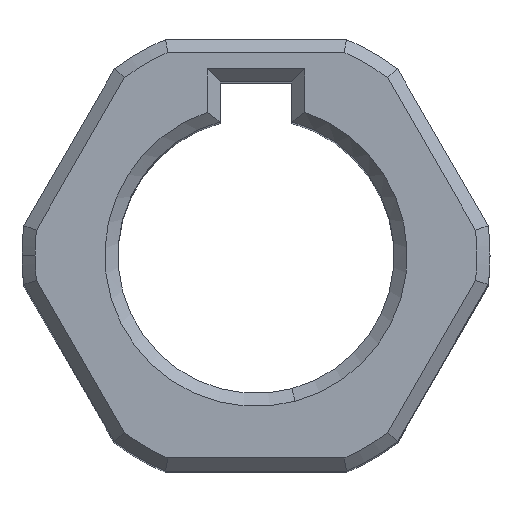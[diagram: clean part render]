
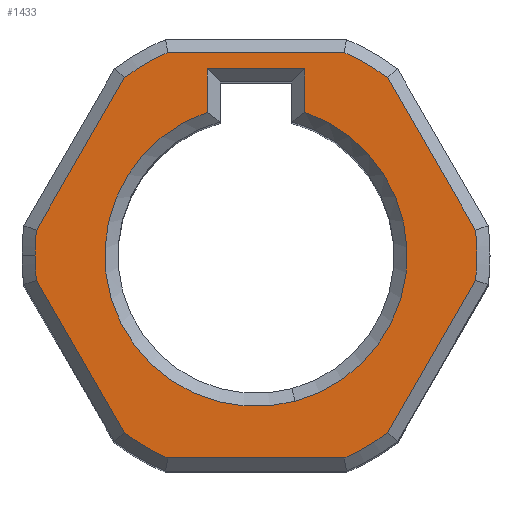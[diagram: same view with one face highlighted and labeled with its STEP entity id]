
A CAD part, top view. The second image highlights one B-rep face of the part: STEP entity #1433.
In plain terms, the highlighted planar face has unit normal (0, 0, 1).
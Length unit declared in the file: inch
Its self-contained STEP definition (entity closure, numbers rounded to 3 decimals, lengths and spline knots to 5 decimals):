
#2 = VECTOR ( 'NONE', #52, 39.37008 ) ;
#23 = CARTESIAN_POINT ( 'NONE',  ( 0.25342, 0.02907, 1. ) ) ;
#30 = CARTESIAN_POINT ( 'NONE',  ( 0., 0., 1. ) ) ;
#37 = VERTEX_POINT ( 'NONE', #1381 ) ;
#41 = EDGE_CURVE ( 'NONE', #304, #479, #1276, .T. ) ;
#45 = CARTESIAN_POINT ( 'NONE',  ( 0., 0., 1. ) ) ;
#47 = ORIENTED_EDGE ( 'NONE', *, *, #41, .F. ) ;
#52 = DIRECTION ( 'NONE',  ( 0., -1., 0. ) ) ;
#72 = VECTOR ( 'NONE', #1590, 39.37008 ) ;
#73 = AXIS2_PLACEMENT_3D ( 'NONE', #1268, #502, #133 ) ;
#77 = CARTESIAN_POINT ( 'NONE',  ( 0., 0., 1. ) ) ;
#79 = LINE ( 'NONE', #212, #72 ) ;
#81 = PLANE ( 'NONE',  #1495 ) ;
#84 = DIRECTION ( 'NONE',  ( 0., 0., -1. ) ) ;
#88 = CARTESIAN_POINT ( 'NONE',  ( -0.25342, -0.02907, 1. ) ) ;
#95 = CARTESIAN_POINT ( 'NONE',  ( 0., 0., 1. ) ) ;
#96 = CIRCLE ( 'NONE', #1014, 0.25508 ) ;
#133 = DIRECTION ( 'NONE',  ( 0.259, -0.966, 0. ) ) ;
#146 = DIRECTION ( 'NONE',  ( 0.259, -0.966, 0. ) ) ;
#151 = CIRCLE ( 'NONE', #1063, 0.17445 ) ;
#157 = CIRCLE ( 'NONE', #1589, 0.25508 ) ;
#168 = ORIENTED_EDGE ( 'NONE', *, *, #192, .F. ) ;
#190 = VERTEX_POINT ( 'NONE', #936 ) ;
#192 = EDGE_CURVE ( 'NONE', #662, #304, #1039, .T. ) ;
#208 = DIRECTION ( 'NONE',  ( 0., 0., -1. ) ) ;
#212 = CARTESIAN_POINT ( 'NONE',  ( 0.05634, 0.1, 1. ) ) ;
#228 = EDGE_CURVE ( 'NONE', #1127, #1602, #1418, .T. ) ;
#235 = DIRECTION ( 'NONE',  ( 0.5, -0.866, 0. ) ) ;
#274 = EDGE_CURVE ( 'NONE', #778, #1401, #1119, .T. ) ;
#303 = CARTESIAN_POINT ( 'NONE',  ( -0.25342, 0.02907, 1. ) ) ;
#304 = VERTEX_POINT ( 'NONE', #428 ) ;
#312 = VERTEX_POINT ( 'NONE', #559 ) ;
#314 = LINE ( 'NONE', #1339, #986 ) ;
#320 = DIRECTION ( 'NONE',  ( -1., 0., 0. ) ) ;
#330 = EDGE_CURVE ( 'NONE', #995, #852, #79, .T. ) ;
#347 = CARTESIAN_POINT ( 'NONE',  ( -0.05634, 0.215, 1. ) ) ;
#384 = LINE ( 'NONE', #1394, #962 ) ;
#389 = EDGE_LOOP ( 'NONE', ( #47, #168, #1459, #486, #1125, #637, #1113, #793, #1251, #1165, #488, #1449, #934 ) ) ;
#401 = CARTESIAN_POINT ( 'NONE',  ( 0., 0., 1. ) ) ;
#420 = DIRECTION ( 'NONE',  ( -1., 0., 0. ) ) ;
#421 = VECTOR ( 'NONE', #1527, 39.37008 ) ;
#426 = CARTESIAN_POINT ( 'NONE',  ( -0.05634, 0.077, 1. ) ) ;
#428 = CARTESIAN_POINT ( 'NONE',  ( 0.25342, -0.02907, 1. ) ) ;
#448 = DIRECTION ( 'NONE',  ( -1., 0., 0. ) ) ;
#479 = VERTEX_POINT ( 'NONE', #898 ) ;
#481 = CARTESIAN_POINT ( 'NONE',  ( 0.07188, 0.234, 1. ) ) ;
#485 = CARTESIAN_POINT ( 'NONE',  ( -0.15188, -0.20493, 1. ) ) ;
#486 = ORIENTED_EDGE ( 'NONE', *, *, #649, .F. ) ;
#488 = ORIENTED_EDGE ( 'NONE', *, *, #837, .F. ) ;
#489 = DIRECTION ( 'NONE',  ( 1., 0., 0. ) ) ;
#502 = DIRECTION ( 'NONE',  ( 0., 0., 1. ) ) ;
#524 = EDGE_CURVE ( 'NONE', #674, #995, #1544, .T. ) ;
#527 = VECTOR ( 'NONE', #970, 39.37008 ) ;
#534 = DIRECTION ( 'NONE',  ( 0., 0., 1. ) ) ;
#537 = CARTESIAN_POINT ( 'NONE',  ( 0.16671, -0.17925, 1. ) ) ;
#559 = CARTESIAN_POINT ( 'NONE',  ( 0.15188, 0.20493, 1. ) ) ;
#574 = VECTOR ( 'NONE', #1441, 39.37008 ) ;
#586 = CARTESIAN_POINT ( 'NONE',  ( 0., 0., 1. ) ) ;
#602 = LINE ( 'NONE', #481, #527 ) ;
#637 = ORIENTED_EDGE ( 'NONE', *, *, #835, .F. ) ;
#649 = EDGE_CURVE ( 'NONE', #1214, #312, #938, .T. ) ;
#662 = VERTEX_POINT ( 'NONE', #23 ) ;
#674 = VERTEX_POINT ( 'NONE', #733 ) ;
#692 = DIRECTION ( 'NONE',  ( -1., 0., 0. ) ) ;
#715 = CARTESIAN_POINT ( 'NONE',  ( 0., 0., 1. ) ) ;
#725 = EDGE_CURVE ( 'NONE', #1602, #674, #151, .T. ) ;
#731 = VECTOR ( 'NONE', #1090, 39.37008 ) ;
#733 = CARTESIAN_POINT ( 'NONE',  ( 0.04523, -0.16848, 1. ) ) ;
#778 = VERTEX_POINT ( 'NONE', #88 ) ;
#793 = ORIENTED_EDGE ( 'NONE', *, *, #1032, .F. ) ;
#798 = CARTESIAN_POINT ( 'NONE',  ( 0., 0., 1. ) ) ;
#822 = LINE ( 'NONE', #932, #574 ) ;
#823 = EDGE_CURVE ( 'NONE', #1058, #190, #314, .T. ) ;
#833 = CARTESIAN_POINT ( 'NONE',  ( -0.10153, 0.234, 1. ) ) ;
#835 = EDGE_CURVE ( 'NONE', #37, #1424, #857, .T. ) ;
#837 = EDGE_CURVE ( 'NONE', #190, #1334, #1065, .T. ) ;
#849 = DIRECTION ( 'NONE',  ( 0., 0., 1. ) ) ;
#852 = VERTEX_POINT ( 'NONE', #1355 ) ;
#857 = CIRCLE ( 'NONE', #1564, 0.25508 ) ;
#898 = CARTESIAN_POINT ( 'NONE',  ( 0.15188, -0.20493, 1. ) ) ;
#909 = AXIS2_PLACEMENT_3D ( 'NONE', #798, #1179, #420 ) ;
#910 = DIRECTION ( 'NONE',  ( 0.5, 0.866, 0. ) ) ;
#932 = CARTESIAN_POINT ( 'NONE',  ( -0.02067, 0.215, 1. ) ) ;
#934 = ORIENTED_EDGE ( 'NONE', *, *, #1213, .F. ) ;
#936 = CARTESIAN_POINT ( 'NONE',  ( -0.10153, -0.234, 1. ) ) ;
#938 = CIRCLE ( 'NONE', #1367, 0.25508 ) ;
#962 = VECTOR ( 'NONE', #235, 39.37008 ) ;
#964 = CARTESIAN_POINT ( 'NONE',  ( 0., 0., 1. ) ) ;
#968 = VERTEX_POINT ( 'NONE', #303 ) ;
#970 = DIRECTION ( 'NONE',  ( 1., 0., 0. ) ) ;
#975 = CARTESIAN_POINT ( 'NONE',  ( -0.23859, -0.05475, 1. ) ) ;
#986 = VECTOR ( 'NONE', #448, 39.37008 ) ;
#991 = LINE ( 'NONE', #975, #731 ) ;
#995 = VERTEX_POINT ( 'NONE', #1226 ) ;
#1013 = EDGE_CURVE ( 'NONE', #1424, #1214, #602, .T. ) ;
#1014 = AXIS2_PLACEMENT_3D ( 'NONE', #30, #1530, #1400 ) ;
#1031 = CARTESIAN_POINT ( 'NONE',  ( -0.16671, 0.17925, 1. ) ) ;
#1032 = EDGE_CURVE ( 'NONE', #1401, #968, #96, .T. ) ;
#1039 = CIRCLE ( 'NONE', #1088, 0.25508 ) ;
#1045 = ORIENTED_EDGE ( 'NONE', *, *, #330, .F. ) ;
#1055 = EDGE_CURVE ( 'NONE', #968, #37, #1415, .T. ) ;
#1058 = VERTEX_POINT ( 'NONE', #1301 ) ;
#1063 = AXIS2_PLACEMENT_3D ( 'NONE', #45, #534, #146 ) ;
#1065 = CIRCLE ( 'NONE', #1204, 0.25508 ) ;
#1088 = AXIS2_PLACEMENT_3D ( 'NONE', #401, #1317, #1440 ) ;
#1090 = DIRECTION ( 'NONE',  ( -0.5, 0.866, 0. ) ) ;
#1097 = EDGE_LOOP ( 'NONE', ( #1434, #1045, #1199, #1536, #1348 ) ) ;
#1113 = ORIENTED_EDGE ( 'NONE', *, *, #1055, .F. ) ;
#1119 = CIRCLE ( 'NONE', #909, 0.25508 ) ;
#1125 = ORIENTED_EDGE ( 'NONE', *, *, #1013, .F. ) ;
#1127 = VERTEX_POINT ( 'NONE', #347 ) ;
#1138 = DIRECTION ( 'NONE',  ( 0., 0., -1. ) ) ;
#1165 = ORIENTED_EDGE ( 'NONE', *, *, #1311, .F. ) ;
#1179 = DIRECTION ( 'NONE',  ( 0., 0., -1. ) ) ;
#1199 = ORIENTED_EDGE ( 'NONE', *, *, #524, .F. ) ;
#1204 = AXIS2_PLACEMENT_3D ( 'NONE', #77, #208, #320 ) ;
#1213 = EDGE_CURVE ( 'NONE', #479, #1058, #157, .T. ) ;
#1214 = VERTEX_POINT ( 'NONE', #1579 ) ;
#1217 = DIRECTION ( 'NONE',  ( 0., 0., -1. ) ) ;
#1222 = DIRECTION ( 'NONE',  ( 1., 0., 0. ) ) ;
#1224 = EDGE_CURVE ( 'NONE', #852, #1127, #822, .T. ) ;
#1226 = CARTESIAN_POINT ( 'NONE',  ( 0.05634, 0.1651, 1. ) ) ;
#1251 = ORIENTED_EDGE ( 'NONE', *, *, #274, .F. ) ;
#1268 = CARTESIAN_POINT ( 'NONE',  ( 0., 0., 1. ) ) ;
#1276 = LINE ( 'NONE', #537, #421 ) ;
#1301 = CARTESIAN_POINT ( 'NONE',  ( 0.10153, -0.234, 1. ) ) ;
#1311 = EDGE_CURVE ( 'NONE', #1334, #778, #991, .T. ) ;
#1317 = DIRECTION ( 'NONE',  ( 0., 0., -1. ) ) ;
#1334 = VERTEX_POINT ( 'NONE', #485 ) ;
#1339 = CARTESIAN_POINT ( 'NONE',  ( -0.07188, -0.234, 1. ) ) ;
#1344 = FACE_OUTER_BOUND ( 'NONE', #389, .T. ) ;
#1348 = ORIENTED_EDGE ( 'NONE', *, *, #228, .F. ) ;
#1355 = CARTESIAN_POINT ( 'NONE',  ( 0.05634, 0.215, 1. ) ) ;
#1357 = CARTESIAN_POINT ( 'NONE',  ( -0.25508, 0., 1. ) ) ;
#1367 = AXIS2_PLACEMENT_3D ( 'NONE', #95, #1138, #489 ) ;
#1381 = CARTESIAN_POINT ( 'NONE',  ( -0.15188, 0.20493, 1. ) ) ;
#1394 = CARTESIAN_POINT ( 'NONE',  ( 0.23859, 0.05475, 1. ) ) ;
#1398 = VECTOR ( 'NONE', #910, 39.37008 ) ;
#1400 = DIRECTION ( 'NONE',  ( -1., 0., 0. ) ) ;
#1401 = VERTEX_POINT ( 'NONE', #1357 ) ;
#1415 = LINE ( 'NONE', #1031, #1398 ) ;
#1418 = LINE ( 'NONE', #426, #2 ) ;
#1424 = VERTEX_POINT ( 'NONE', #833 ) ;
#1433 = ADVANCED_FACE ( 'NONE', ( #1344, #1600 ), #81, .T. ) ;
#1434 = ORIENTED_EDGE ( 'NONE', *, *, #1224, .F. ) ;
#1440 = DIRECTION ( 'NONE',  ( 1., 0., 0. ) ) ;
#1441 = DIRECTION ( 'NONE',  ( -1., 0., 0. ) ) ;
#1449 = ORIENTED_EDGE ( 'NONE', *, *, #823, .F. ) ;
#1456 = CARTESIAN_POINT ( 'NONE',  ( -0.05634, 0.1651, 1. ) ) ;
#1459 = ORIENTED_EDGE ( 'NONE', *, *, #1485, .F. ) ;
#1485 = EDGE_CURVE ( 'NONE', #312, #662, #384, .T. ) ;
#1488 = DIRECTION ( 'NONE',  ( 1., 0., 0. ) ) ;
#1495 = AXIS2_PLACEMENT_3D ( 'NONE', #586, #849, #1488 ) ;
#1527 = DIRECTION ( 'NONE',  ( -0.5, -0.866, 0. ) ) ;
#1530 = DIRECTION ( 'NONE',  ( 0., 0., -1. ) ) ;
#1536 = ORIENTED_EDGE ( 'NONE', *, *, #725, .F. ) ;
#1544 = CIRCLE ( 'NONE', #73, 0.17445 ) ;
#1564 = AXIS2_PLACEMENT_3D ( 'NONE', #964, #84, #692 ) ;
#1579 = CARTESIAN_POINT ( 'NONE',  ( 0.10153, 0.234, 1. ) ) ;
#1589 = AXIS2_PLACEMENT_3D ( 'NONE', #715, #1217, #1222 ) ;
#1590 = DIRECTION ( 'NONE',  ( 0., 1., 0. ) ) ;
#1600 = FACE_BOUND ( 'NONE', #1097, .T. ) ;
#1602 = VERTEX_POINT ( 'NONE', #1456 ) ;
